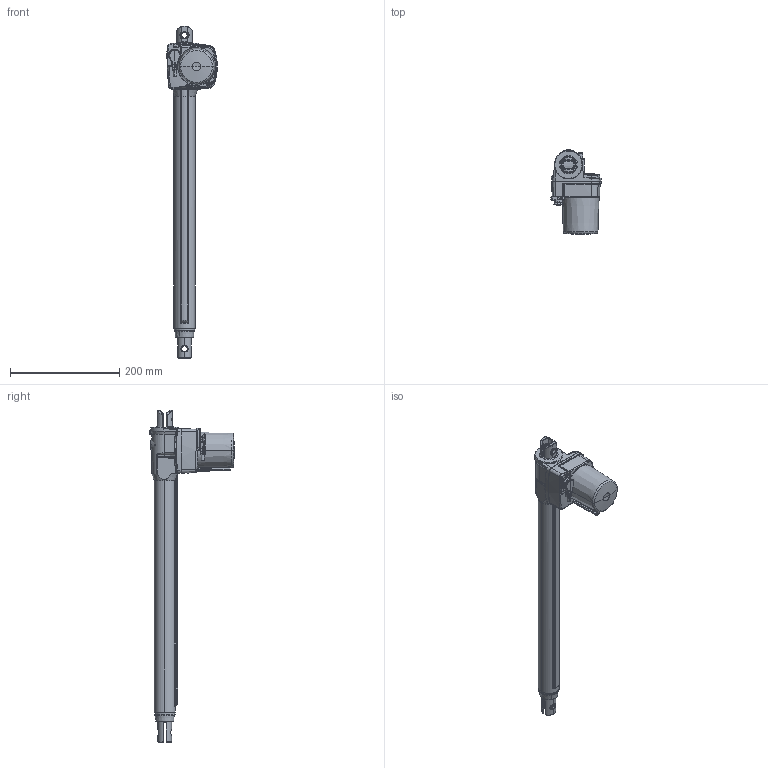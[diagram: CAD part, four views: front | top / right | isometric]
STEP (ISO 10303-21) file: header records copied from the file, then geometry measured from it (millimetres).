
FILE_DESCRIPTION((''),'2;1');
FILE_NAME('0244108_ASM','2023-08-18T11:18:59',('ti'),(''),'CREO PARAMETRIC BY PTC INC, 2022024','CREO PARAMETRIC BY PTC INC, 2022024','');
FILE_SCHEMA(('AUTOMOTIVE_DESIGN { 1 0 10303 214 1 1 1 1 }'));
Length unit declared in the file: millimetre
Products named in the file (7): SHELL-0244108-BODY; SHELL-0241347; SHELL-OUTER-TUBE; SHELL-3430014; SHELL-0241340; SHELL-0273018; 0244108_ASM
Assembly tree (6 placements, depth 2):
  0244108_ASM
    SHELL-0244108-BODY
    SHELL-0241347
    SHELL-OUTER-TUBE
    SHELL-3430014
    SHELL-0241340
    SHELL-0273018
Bounding box: 92.38 x 155.65 x 609 mm (x, y, z)
Volume: 1567309.9 mm3; surface area: 182619.1 mm2
Topology: 6 solids, 7 shells, 1893 faces, 4569 edges, 2706 vertices
Faces by surface type: cylinder 526, bspline 429, torus 390, plane 332, cone 128, sphere 80, extrusion 6, revolution 2
Entity records: 96446 total; most frequent: CARTESIAN_POINT 46514, ORIENTED_EDGE 9122, DIRECTION 8294, EDGE_CURVE 4561, AXIS2_PLACEMENT_3D 3485, VERTEX_POINT 2706, PRESENTATION_STYLE_ASSIGNMENT 2190, STYLED_ITEM 2115
